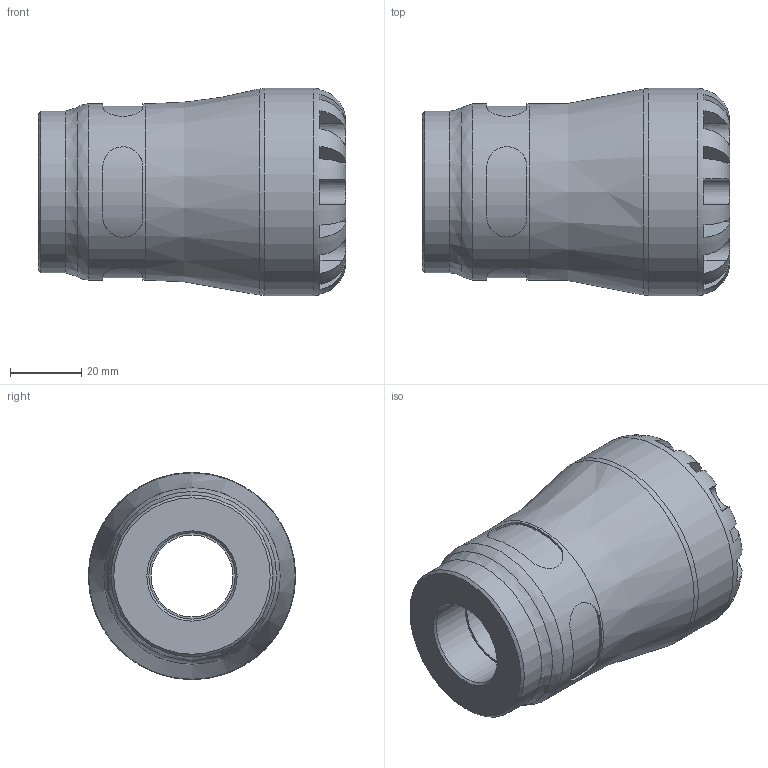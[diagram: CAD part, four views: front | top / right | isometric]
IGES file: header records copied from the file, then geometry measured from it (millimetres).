
Global section: file name: 1073G0032007.ipt; native system: Autodesk Inventor 2015; preprocessor: unknown; author: KIM; date: 20170122.113812; units: millimetre
Bounding box: 86 x 58 x 58 mm (x, y, z)
Volume: 119978.8 mm3; surface area: 26398.9 mm2
Topology: 1 solids, 1 shells, 104 faces, 270 edges, 174 vertices
Faces by surface type: plane 61, revolution 27, cylinder 15, cone 1
Full cylindrical faces by diameter (mm): 45.24 x1, 49.3 x1, 58 x1
